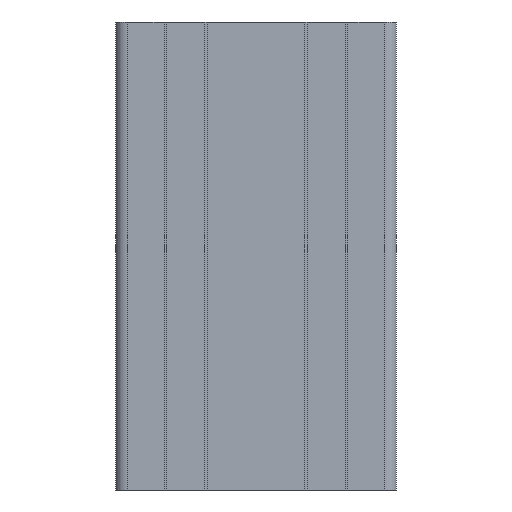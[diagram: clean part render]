
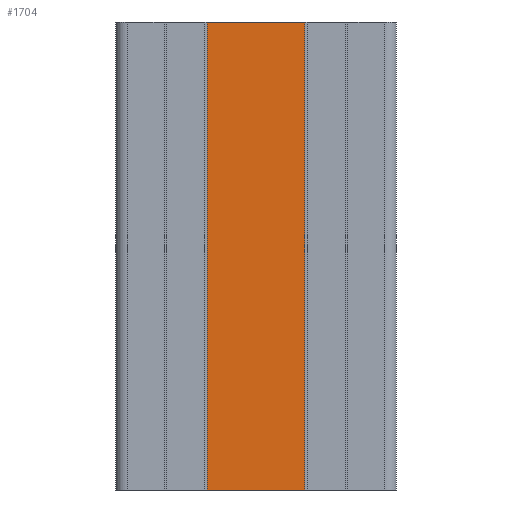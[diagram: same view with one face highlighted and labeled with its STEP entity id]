
A CAD part, front view. The second image highlights one B-rep face of the part: STEP entity #1704.
In plain terms, the highlighted planar face has unit normal (0, -1, 0).
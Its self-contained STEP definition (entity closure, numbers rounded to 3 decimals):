
#90 = PLANE ( 'NONE',  #3719 ) ;
#133 = DIRECTION ( 'NONE',  ( 1., 0., 0. ) ) ;
#150 = VECTOR ( 'NONE', #3811, 1000. ) ;
#256 = VECTOR ( 'NONE', #133, 1000. ) ;
#265 = LINE ( 'NONE', #3037, #256 ) ;
#336 = LINE ( 'NONE', #3516, #150 ) ;
#412 = ORIENTED_EDGE ( 'NONE', *, *, #3471, .F. ) ;
#514 = VERTEX_POINT ( 'NONE', #3621 ) ;
#553 = ORIENTED_EDGE ( 'NONE', *, *, #2253, .T. ) ;
#569 = EDGE_CURVE ( 'NONE', #2598, #1871, #265, .T. ) ;
#734 = CARTESIAN_POINT ( 'NONE',  ( 25.4, -15., 0. ) ) ;
#764 = DIRECTION ( 'NONE',  ( 0., -1., 0. ) ) ;
#1090 = CARTESIAN_POINT ( 'NONE',  ( 4.6, -15., -100. ) ) ;
#1156 = CARTESIAN_POINT ( 'NONE',  ( 4.6, -15., -100. ) ) ;
#1291 = ORIENTED_EDGE ( 'NONE', *, *, #2544, .T. ) ;
#1581 = ORIENTED_EDGE ( 'NONE', *, *, #569, .F. ) ;
#1704 = ADVANCED_FACE ( 'NONE', ( #2886 ), #90, .T. ) ;
#1755 = CARTESIAN_POINT ( 'NONE',  ( 15., -15., -100. ) ) ;
#1825 = CARTESIAN_POINT ( 'NONE',  ( 4.6, -15., 0. ) ) ;
#1835 = LINE ( 'NONE', #1090, #3175 ) ;
#1871 = VERTEX_POINT ( 'NONE', #734 ) ;
#1953 = VECTOR ( 'NONE', #3695, 1000. ) ;
#1988 = VERTEX_POINT ( 'NONE', #1156 ) ;
#2062 = EDGE_LOOP ( 'NONE', ( #412, #553, #1291, #1581 ) ) ;
#2070 = LINE ( 'NONE', #3393, #1953 ) ;
#2101 = DIRECTION ( 'NONE',  ( 0., 0., 1. ) ) ;
#2253 = EDGE_CURVE ( 'NONE', #1988, #514, #336, .T. ) ;
#2544 = EDGE_CURVE ( 'NONE', #514, #1871, #2070, .T. ) ;
#2598 = VERTEX_POINT ( 'NONE', #1825 ) ;
#2886 = FACE_OUTER_BOUND ( 'NONE', #2062, .T. ) ;
#3016 = DIRECTION ( 'NONE',  ( 1., 0., 0. ) ) ;
#3037 = CARTESIAN_POINT ( 'NONE',  ( 15., -15., 0. ) ) ;
#3175 = VECTOR ( 'NONE', #2101, 1000. ) ;
#3393 = CARTESIAN_POINT ( 'NONE',  ( 25.4, -15., -100. ) ) ;
#3471 = EDGE_CURVE ( 'NONE', #1988, #2598, #1835, .T. ) ;
#3516 = CARTESIAN_POINT ( 'NONE',  ( 15., -15., -100. ) ) ;
#3621 = CARTESIAN_POINT ( 'NONE',  ( 25.4, -15., -100. ) ) ;
#3695 = DIRECTION ( 'NONE',  ( 0., 0., 1. ) ) ;
#3719 = AXIS2_PLACEMENT_3D ( 'NONE', #1755, #764, #3016 ) ;
#3811 = DIRECTION ( 'NONE',  ( 1., 0., 0. ) ) ;
